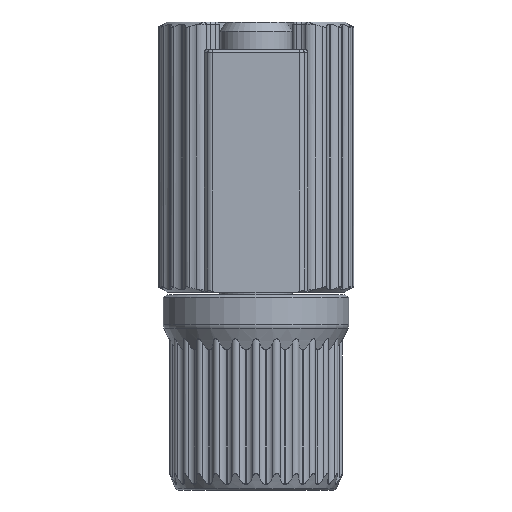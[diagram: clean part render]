
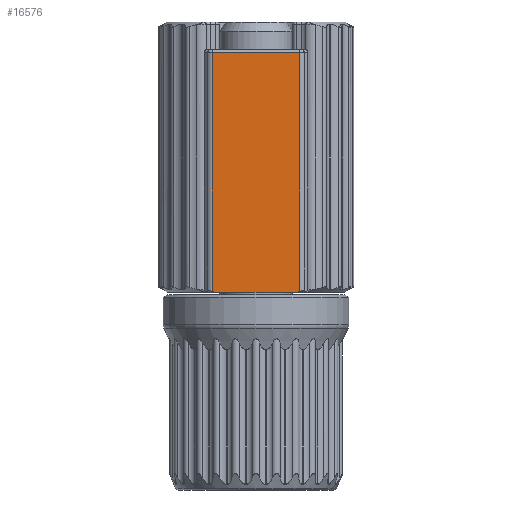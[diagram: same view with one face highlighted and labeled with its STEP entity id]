
A CAD part, front view. The second image highlights one B-rep face of the part: STEP entity #16576.
In plain terms, the highlighted planar face has unit normal (0, -1, 0).
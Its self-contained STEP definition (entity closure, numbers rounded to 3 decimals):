
#9 = PLANE ( 'NONE',  #21411 ) ;
#360 = ORIENTED_EDGE ( 'NONE', *, *, #25847, .F. ) ;
#453 = ORIENTED_EDGE ( 'NONE', *, *, #22104, .T. ) ;
#1911 = CARTESIAN_POINT ( 'NONE',  ( -4.865, -8.75, -29.921 ) ) ;
#2350 = DIRECTION ( 'NONE',  ( 1., 0., 0. ) ) ;
#2560 = ORIENTED_EDGE ( 'NONE', *, *, #23486, .T. ) ;
#2649 = EDGE_CURVE ( 'NONE', #25460, #21400, #12337, .T. ) ;
#2749 = B_SPLINE_CURVE_WITH_KNOTS ( 'NONE', 3,
 ( #19110, #25534, #6644, #8654 ),
 .UNSPECIFIED., .F., .F.,
 ( 4, 4 ),
 ( 0.006, 0.007 ),
 .UNSPECIFIED. ) ;
#3272 = CARTESIAN_POINT ( 'NONE',  ( -4.577, -8.75, -30. ) ) ;
#4178 = VECTOR ( 'NONE', #17632, 1000. ) ;
#5378 = CARTESIAN_POINT ( 'NONE',  ( -4.865, -8.75, 23.071 ) ) ;
#6399 = EDGE_CURVE ( 'NONE', #18940, #25460, #24961, .T. ) ;
#6596 = LINE ( 'NONE', #26340, #26950 ) ;
#6644 = CARTESIAN_POINT ( 'NONE',  ( -4.674, -8.75, -29.974 ) ) ;
#7694 = CARTESIAN_POINT ( 'NONE',  ( 4.769, -8.75, -29.948 ) ) ;
#8565 = CARTESIAN_POINT ( 'NONE',  ( 4.865, -8.75, -29.921 ) ) ;
#8654 = CARTESIAN_POINT ( 'NONE',  ( -4.577, -8.75, -30. ) ) ;
#9730 = LINE ( 'NONE', #13517, #4178 ) ;
#10369 = CARTESIAN_POINT ( 'NONE',  ( 4.865, -8.75, -3.4 ) ) ;
#12143 = CARTESIAN_POINT ( 'NONE',  ( 4.577, -8.75, -30. ) ) ;
#12337 = B_SPLINE_CURVE_WITH_KNOTS ( 'NONE', 3,
 ( #24762, #18155, #7694, #16252 ),
 .UNSPECIFIED., .F., .F.,
 ( 4, 4 ),
 ( 0.016, 0.016 ),
 .UNSPECIFIED. ) ;
#12775 = LINE ( 'NONE', #5378, #13443 ) ;
#12980 = CARTESIAN_POINT ( 'NONE',  ( -4.865, -8.75, -30. ) ) ;
#13077 = VERTEX_POINT ( 'NONE', #1911 ) ;
#13163 = EDGE_LOOP ( 'NONE', ( #360, #453, #2560, #21866, #24094, #16409 ) ) ;
#13443 = VECTOR ( 'NONE', #13993, 1000. ) ;
#13517 = CARTESIAN_POINT ( 'NONE',  ( 4.865, -8.75, 23.071 ) ) ;
#13993 = DIRECTION ( 'NONE',  ( 0., 0., -1. ) ) ;
#16252 = CARTESIAN_POINT ( 'NONE',  ( 4.865, -8.75, -29.921 ) ) ;
#16409 = ORIENTED_EDGE ( 'NONE', *, *, #2649, .T. ) ;
#16418 = CARTESIAN_POINT ( 'NONE',  ( -4.865, -8.75, -3.4 ) ) ;
#16576 = ADVANCED_FACE ( 'NONE', ( #24830 ), #9, .F. ) ;
#16766 = VECTOR ( 'NONE', #2350, 1000. ) ;
#17011 = VERTEX_POINT ( 'NONE', #16418 ) ;
#17632 = DIRECTION ( 'NONE',  ( 0., 0., -1. ) ) ;
#18155 = CARTESIAN_POINT ( 'NONE',  ( 4.674, -8.75, -29.974 ) ) ;
#18940 = VERTEX_POINT ( 'NONE', #3272 ) ;
#19110 = CARTESIAN_POINT ( 'NONE',  ( -4.865, -8.75, -29.921 ) ) ;
#20645 = CARTESIAN_POINT ( 'NONE',  ( -4.865, -8.75, 23.071 ) ) ;
#21400 = VERTEX_POINT ( 'NONE', #8565 ) ;
#21411 = AXIS2_PLACEMENT_3D ( 'NONE', #20645, #24958, #22679 ) ;
#21866 = ORIENTED_EDGE ( 'NONE', *, *, #23272, .T. ) ;
#22104 = EDGE_CURVE ( 'NONE', #27042, #17011, #6596, .T. ) ;
#22211 = DIRECTION ( 'NONE',  ( -1., 0., 0. ) ) ;
#22679 = DIRECTION ( 'NONE',  ( -1., 0., 0. ) ) ;
#23272 = EDGE_CURVE ( 'NONE', #13077, #18940, #2749, .T. ) ;
#23486 = EDGE_CURVE ( 'NONE', #17011, #13077, #12775, .T. ) ;
#24094 = ORIENTED_EDGE ( 'NONE', *, *, #6399, .T. ) ;
#24762 = CARTESIAN_POINT ( 'NONE',  ( 4.577, -8.75, -30. ) ) ;
#24830 = FACE_OUTER_BOUND ( 'NONE', #13163, .T. ) ;
#24958 = DIRECTION ( 'NONE',  ( 0., 1., 0. ) ) ;
#24961 = LINE ( 'NONE', #12980, #16766 ) ;
#25460 = VERTEX_POINT ( 'NONE', #12143 ) ;
#25534 = CARTESIAN_POINT ( 'NONE',  ( -4.769, -8.75, -29.948 ) ) ;
#25847 = EDGE_CURVE ( 'NONE', #27042, #21400, #9730, .T. ) ;
#26340 = CARTESIAN_POINT ( 'NONE',  ( -4.865, -8.75, -3.4 ) ) ;
#26950 = VECTOR ( 'NONE', #22211, 1000. ) ;
#27042 = VERTEX_POINT ( 'NONE', #10369 ) ;
